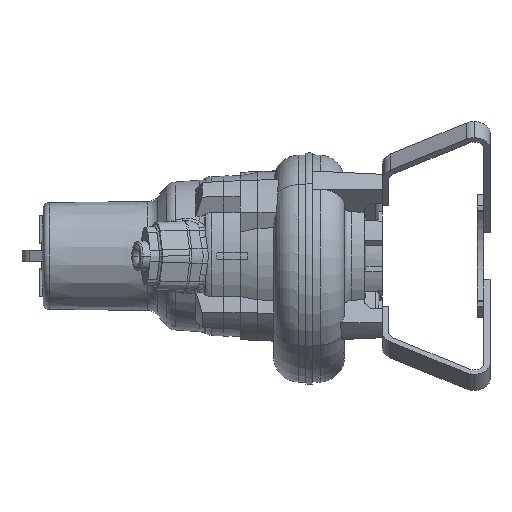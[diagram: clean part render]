
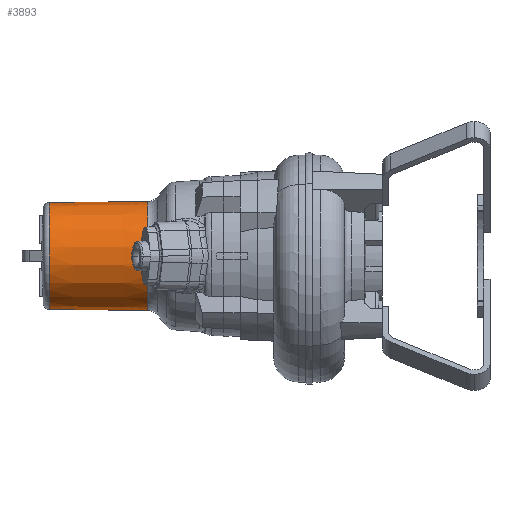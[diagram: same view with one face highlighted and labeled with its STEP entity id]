
A CAD part, left-side view. The second image highlights one B-rep face of the part: STEP entity #3893.
In plain terms, the highlighted conical face has half-angle 0.494 degrees and reference radius 84.5 mm.
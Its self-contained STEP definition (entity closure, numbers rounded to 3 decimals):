
#56 = EDGE_CURVE ( 'NONE', #18930, #24125, #18680, .T. ) ;
#87 = CARTESIAN_POINT ( 'NONE',  ( -85.916, 123.673, -1.001 ) ) ;
#861 = EDGE_CURVE ( 'NONE', #16351, #18930, #4795, .T. ) ;
#2328 = CARTESIAN_POINT ( 'NONE',  ( -85.897, 123.483, 1.963 ) ) ;
#2519 = CARTESIAN_POINT ( 'NONE',  ( 0., 123.221, 0. ) ) ;
#2639 = CARTESIAN_POINT ( 'NONE',  ( -85.913, 123.636, 0.983 ) ) ;
#3741 = EDGE_CURVE ( 'NONE', #24125, #17193, #6336, .T. ) ;
#3893 = ADVANCED_FACE ( 'NONE', ( #4742 ), #15975, .T. ) ;
#4742 = FACE_OUTER_BOUND ( 'NONE', #28287, .T. ) ;
#4795 = CIRCLE ( 'NONE', #24950, 84.58 ) ;
#4932 = CARTESIAN_POINT ( 'NONE',  ( -85.871, 123.221, -2.923 ) ) ;
#5014 = CARTESIAN_POINT ( 'NONE',  ( -85.917, 123.675, 0.482 ) ) ;
#5398 = VERTEX_POINT ( 'NONE', #26789 ) ;
#5407 = LINE ( 'NONE', #26918, #28506 ) ;
#6336 = CIRCLE ( 'NONE', #11932, 85.921 ) ;
#6651 = CARTESIAN_POINT ( 'NONE',  ( 0., 288., -84.5 ) ) ;
#6780 = DIRECTION ( 'NONE',  ( 0., 1., 0. ) ) ;
#7563 = DIRECTION ( 'NONE',  ( 0., 1., 0. ) ) ;
#8337 = CARTESIAN_POINT ( 'NONE',  ( 0., 288., 0. ) ) ;
#9600 = CARTESIAN_POINT ( 'NONE',  ( -85.886, 123.369, 2.446 ) ) ;
#11039 = CARTESIAN_POINT ( 'NONE',  ( 0., 278.764, -84.58 ) ) ;
#11932 = AXIS2_PLACEMENT_3D ( 'NONE', #2519, #7563, #12011 ) ;
#12011 = DIRECTION ( 'NONE',  ( 0., 0., -1. ) ) ;
#12781 = DIRECTION ( 'NONE',  ( 0., -1., 0. ) ) ;
#14312 = CARTESIAN_POINT ( 'NONE',  ( 0., 278.764, 0. ) ) ;
#14812 = CARTESIAN_POINT ( 'NONE',  ( -85.871, 123.221, -2.923 ) ) ;
#15666 = ORIENTED_EDGE ( 'NONE', *, *, #56, .T. ) ;
#15975 = CONICAL_SURFACE ( 'NONE', #20480, 84.5, 0.009 ) ;
#16351 = VERTEX_POINT ( 'NONE', #25105 ) ;
#17193 = VERTEX_POINT ( 'NONE', #4932 ) ;
#18381 = CARTESIAN_POINT ( 'NONE',  ( -85.871, 123.221, 2.923 ) ) ;
#18680 = LINE ( 'NONE', #6651, #25478 ) ;
#18930 = VERTEX_POINT ( 'NONE', #11039 ) ;
#19096 = CARTESIAN_POINT ( 'NONE',  ( -85.901, 123.517, -1.97 ) ) ;
#19278 = DIRECTION ( 'NONE',  ( 0., 0., -1. ) ) ;
#19653 = ORIENTED_EDGE ( 'NONE', *, *, #3741, .T. ) ;
#19676 = DIRECTION ( 'NONE',  ( 0., -1., 0. ) ) ;
#19723 = CIRCLE ( 'NONE', #29326, 85.921 ) ;
#20480 = AXIS2_PLACEMENT_3D ( 'NONE', #8337, #12781, #24780 ) ;
#21149 = EDGE_CURVE ( 'NONE', #25984, #5398, #19723, .T. ) ;
#21442 = ORIENTED_EDGE ( 'NONE', *, *, #31009, .T. ) ;
#21968 = B_SPLINE_CURVE_WITH_KNOTS ( 'NONE', 3,
 ( #14812, #19096, #87, #5014, #2639, #2328, #9600, #24442 ),
 .UNSPECIFIED., .F., .F.,
 ( 4, 2, 2, 4 ),
 ( 0., 0.003, 0.004, 0.006 ),
 .UNSPECIFIED. ) ;
#22690 = CARTESIAN_POINT ( 'NONE',  ( 0., 123.221, -85.921 ) ) ;
#24101 = DIRECTION ( 'NONE',  ( 0., 0., 1. ) ) ;
#24125 = VERTEX_POINT ( 'NONE', #22690 ) ;
#24442 = CARTESIAN_POINT ( 'NONE',  ( -85.871, 123.221, 2.923 ) ) ;
#24780 = DIRECTION ( 'NONE',  ( 0., 0., -1. ) ) ;
#24950 = AXIS2_PLACEMENT_3D ( 'NONE', #14312, #19676, #24101 ) ;
#25105 = CARTESIAN_POINT ( 'NONE',  ( 0., 278.764, 84.58 ) ) ;
#25478 = VECTOR ( 'NONE', #28952, 1000. ) ;
#25984 = VERTEX_POINT ( 'NONE', #18381 ) ;
#26388 = ORIENTED_EDGE ( 'NONE', *, *, #861, .T. ) ;
#26789 = CARTESIAN_POINT ( 'NONE',  ( 0., 123.221, 85.921 ) ) ;
#26918 = CARTESIAN_POINT ( 'NONE',  ( 0., 288., 84.5 ) ) ;
#27921 = ORIENTED_EDGE ( 'NONE', *, *, #21149, .T. ) ;
#28287 = EDGE_LOOP ( 'NONE', ( #29986, #26388, #15666, #19653, #21442, #27921 ) ) ;
#28506 = VECTOR ( 'NONE', #29292, 1000. ) ;
#28924 = CARTESIAN_POINT ( 'NONE',  ( 0., 123.221, 0. ) ) ;
#28952 = DIRECTION ( 'NONE',  ( 0., -1., -0.009 ) ) ;
#29292 = DIRECTION ( 'NONE',  ( 0., -1., 0.009 ) ) ;
#29326 = AXIS2_PLACEMENT_3D ( 'NONE', #28924, #6780, #19278 ) ;
#29986 = ORIENTED_EDGE ( 'NONE', *, *, #30177, .F. ) ;
#30177 = EDGE_CURVE ( 'NONE', #16351, #5398, #5407, .T. ) ;
#31009 = EDGE_CURVE ( 'NONE', #17193, #25984, #21968, .T. ) ;
